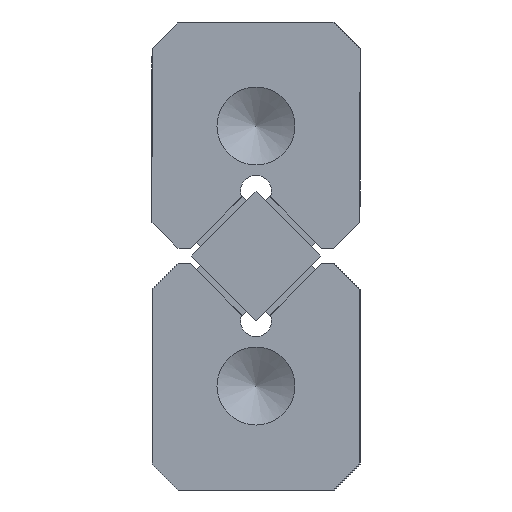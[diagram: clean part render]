
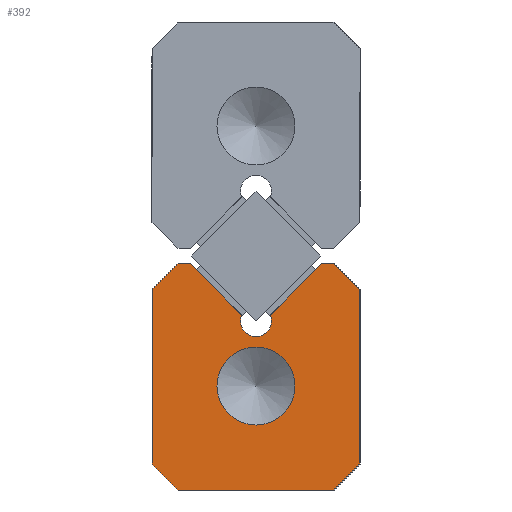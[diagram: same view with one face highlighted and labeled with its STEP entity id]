
A CAD part, left-side view. The second image highlights one B-rep face of the part: STEP entity #392.
In plain terms, the highlighted planar face has unit normal (-1, 0, 0).
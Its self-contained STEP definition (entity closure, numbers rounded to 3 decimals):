
#98=CARTESIAN_POINT('',(0.0,-3.,5.2));
#99=VERTEX_POINT('',#98);
#106=CARTESIAN_POINT('',(0.0,-4.0,4.2));
#107=VERTEX_POINT('',#106);
#108=CARTESIAN_POINT('',(0.0,-3.,5.2));
#109=DIRECTION('',(0.0,-0.707,-0.707));
#110=VECTOR('',#109,1.414);
#111=LINE('',#108,#110);
#112=EDGE_CURVE('',#99,#107,#111,.T.);
#137=CARTESIAN_POINT('',(0.0,-2.528,5.2));
#138=VERTEX_POINT('',#137);
#145=CARTESIAN_POINT('',(0.0,-2.528,5.2));
#146=DIRECTION('',(0.0,-1.0,0.0));
#147=VECTOR('',#146,0.472);
#148=LINE('',#145,#147);
#149=EDGE_CURVE('',#138,#99,#148,.T.);
#260=CARTESIAN_POINT('',(0.0,-4.0,-2.5));
#261=VERTEX_POINT('',#260);
#268=CARTESIAN_POINT('',(0.0,-3.,-3.5));
#269=VERTEX_POINT('',#268);
#270=CARTESIAN_POINT('',(0.0,-4.0,-2.5));
#271=DIRECTION('',(0.0,0.707,-0.707));
#272=VECTOR('',#271,1.414);
#273=LINE('',#270,#272);
#274=EDGE_CURVE('',#261,#269,#273,.T.);
#291=CARTESIAN_POINT('',(0.0,3.,-3.5));
#292=VERTEX_POINT('',#291);
#293=CARTESIAN_POINT('',(0.0,-3.,-3.5));
#294=DIRECTION('',(0.0,1.0,0.0));
#295=VECTOR('',#294,6.);
#296=LINE('',#293,#295);
#297=EDGE_CURVE('',#269,#292,#296,.T.);
#309=CARTESIAN_POINT('',(0.0,0.,0.885));
#310=DIRECTION('',(1.0,0.0,0.0));
#311=DIRECTION('',(0.0,0.0,-1.0));
#312=AXIS2_PLACEMENT_3D('',#309,#310,#311);
#313=PLANE('',#312);
#314=ORIENTED_EDGE('',*,*,#112,.F.);
#315=ORIENTED_EDGE('',*,*,#149,.F.);
#316=CARTESIAN_POINT('',(0.0,-0.555,3.227));
#317=VERTEX_POINT('',#316);
#318=CARTESIAN_POINT('',(0.0,-0.555,3.227));
#319=DIRECTION('',(0.0,-0.707,0.707));
#320=VECTOR('',#319,2.79);
#321=LINE('',#318,#320);
#322=EDGE_CURVE('',#317,#138,#321,.T.);
#323=ORIENTED_EDGE('',*,*,#322,.F.);
#324=CARTESIAN_POINT('',(0.0,0.555,3.227));
#325=VERTEX_POINT('',#324);
#326=CARTESIAN_POINT('',(0.0,0.0,3.));
#327=DIRECTION('',(-1.,0.0,0.0));
#328=DIRECTION('',(0.0,0.926,-0.378));
#329=AXIS2_PLACEMENT_3D('',#326,#327,#328);
#330=CIRCLE('',#329,0.6);
#331=EDGE_CURVE('',#325,#317,#330,.T.);
#332=ORIENTED_EDGE('',*,*,#331,.F.);
#333=CARTESIAN_POINT('',(0.0,2.528,5.2));
#334=VERTEX_POINT('',#333);
#335=CARTESIAN_POINT('',(0.0,2.528,5.2));
#336=DIRECTION('',(0.0,-0.707,-0.707));
#337=VECTOR('',#336,2.79);
#338=LINE('',#335,#337);
#339=EDGE_CURVE('',#334,#325,#338,.T.);
#340=ORIENTED_EDGE('',*,*,#339,.F.);
#341=CARTESIAN_POINT('',(0.0,3.,5.2));
#342=VERTEX_POINT('',#341);
#343=CARTESIAN_POINT('',(0.0,3.,5.2));
#344=DIRECTION('',(0.0,-1.0,0.0));
#345=VECTOR('',#344,0.472);
#346=LINE('',#343,#345);
#347=EDGE_CURVE('',#342,#334,#346,.T.);
#348=ORIENTED_EDGE('',*,*,#347,.F.);
#349=CARTESIAN_POINT('',(0.0,4.0,4.2));
#350=VERTEX_POINT('',#349);
#351=CARTESIAN_POINT('',(0.0,4.0,4.2));
#352=DIRECTION('',(0.0,-0.707,0.707));
#353=VECTOR('',#352,1.414);
#354=LINE('',#351,#353);
#355=EDGE_CURVE('',#350,#342,#354,.T.);
#356=ORIENTED_EDGE('',*,*,#355,.F.);
#357=CARTESIAN_POINT('',(0.0,4.0,-2.5));
#358=VERTEX_POINT('',#357);
#359=CARTESIAN_POINT('',(0.0,4.0,-2.5));
#360=DIRECTION('',(0.0,0.0,1.0));
#361=VECTOR('',#360,6.7);
#362=LINE('',#359,#361);
#363=EDGE_CURVE('',#358,#350,#362,.T.);
#364=ORIENTED_EDGE('',*,*,#363,.F.);
#365=CARTESIAN_POINT('',(0.0,3.,-3.5));
#366=DIRECTION('',(0.0,0.707,0.707));
#367=VECTOR('',#366,1.414);
#368=LINE('',#365,#367);
#369=EDGE_CURVE('',#292,#358,#368,.T.);
#370=ORIENTED_EDGE('',*,*,#369,.F.);
#371=ORIENTED_EDGE('',*,*,#297,.F.);
#372=ORIENTED_EDGE('',*,*,#274,.F.);
#373=CARTESIAN_POINT('',(0.0,-4.0,4.2));
#374=DIRECTION('',(0.0,0.0,-1.0));
#375=VECTOR('',#374,6.7);
#376=LINE('',#373,#375);
#377=EDGE_CURVE('',#107,#261,#376,.T.);
#378=ORIENTED_EDGE('',*,*,#377,.F.);
#379=EDGE_LOOP('',(#314,#315,#323,#332,#340,#348,#356,#364,#370,#371,#372,#378));
#380=FACE_OUTER_BOUND('',#379,.T.);
#381=CARTESIAN_POINT('',(0.0,1.5,0.5));
#382=VERTEX_POINT('',#381);
#383=CARTESIAN_POINT('',(0.0,0.0,0.5));
#384=DIRECTION('',(1.0,0.0,0.0));
#385=DIRECTION('',(0.0,1.0,0.0));
#386=AXIS2_PLACEMENT_3D('',#383,#384,#385);
#387=CIRCLE('',#386,1.5);
#388=EDGE_CURVE('',#382,#382,#387,.T.);
#389=ORIENTED_EDGE('',*,*,#388,.T.);
#390=EDGE_LOOP('',(#389));
#391=FACE_BOUND('',#390,.T.);
#392=ADVANCED_FACE('',(#380,#391),#313,.F.);
